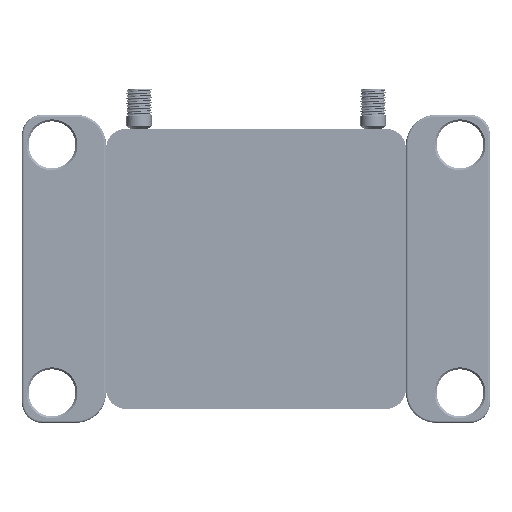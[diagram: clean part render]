
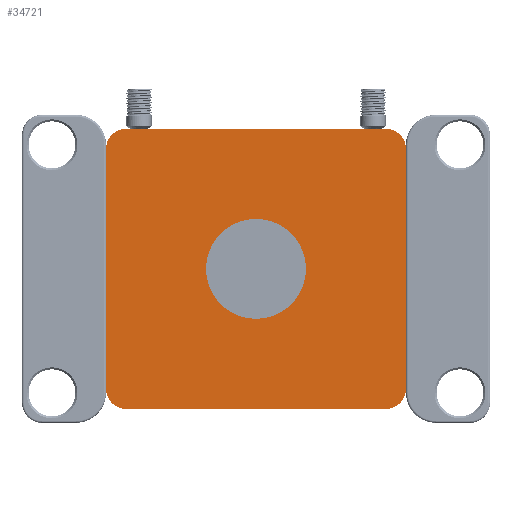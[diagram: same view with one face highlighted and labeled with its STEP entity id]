
A CAD part, front view. The second image highlights one B-rep face of the part: STEP entity #34721.
In plain terms, the highlighted planar face has unit normal (0, -1, 0) as drawn and (0, 1, 0) by its records, which use the part's own axes.
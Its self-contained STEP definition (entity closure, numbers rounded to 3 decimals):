
#326 = DIRECTION ( 'NONE',  ( -1., 0., 0. ) ) ;
#699 = CARTESIAN_POINT ( 'NONE',  ( 0., 8., 25. ) ) ;
#965 = VERTEX_POINT ( 'NONE', #47832 ) ;
#1622 = DIRECTION ( 'NONE',  ( 0., 0., 1. ) ) ;
#1713 = LINE ( 'NONE', #6907, #27097 ) ;
#3095 = CARTESIAN_POINT ( 'NONE',  ( -65., 8., -60. ) ) ;
#3422 = ORIENTED_EDGE ( 'NONE', *, *, #52947, .T. ) ;
#5233 = FACE_OUTER_BOUND ( 'NONE', #31980, .T. ) ;
#6200 = CIRCLE ( 'NONE', #20962, 10. ) ;
#6446 = ORIENTED_EDGE ( 'NONE', *, *, #16404, .T. ) ;
#6511 = FACE_BOUND ( 'NONE', #52946, .T. ) ;
#6548 = AXIS2_PLACEMENT_3D ( 'NONE', #3095, #6706, #31934 ) ;
#6706 = DIRECTION ( 'NONE',  ( 0., 1., 0. ) ) ;
#6907 = CARTESIAN_POINT ( 'NONE',  ( 65., 8., 70. ) ) ;
#7329 = CARTESIAN_POINT ( 'NONE',  ( 65., 8., 60. ) ) ;
#7613 = CARTESIAN_POINT ( 'NONE',  ( -75., 8., -60. ) ) ;
#7651 = VERTEX_POINT ( 'NONE', #7613 ) ;
#7685 = ORIENTED_EDGE ( 'NONE', *, *, #57881, .T. ) ;
#8402 = VERTEX_POINT ( 'NONE', #44246 ) ;
#10385 = VERTEX_POINT ( 'NONE', #62596 ) ;
#10477 = AXIS2_PLACEMENT_3D ( 'NONE', #56327, #26480, #1622 ) ;
#10782 = LINE ( 'NONE', #36648, #63142 ) ;
#11308 = CIRCLE ( 'NONE', #51080, 25. ) ;
#11392 = VECTOR ( 'NONE', #20124, 1000. ) ;
#11656 = VERTEX_POINT ( 'NONE', #35605 ) ;
#12130 = CARTESIAN_POINT ( 'NONE',  ( 75., 8., -60. ) ) ;
#14610 = DIRECTION ( 'NONE',  ( 0., 0., -1. ) ) ;
#14898 = LINE ( 'NONE', #55215, #11392 ) ;
#16355 = EDGE_CURVE ( 'NONE', #7651, #8402, #20705, .T. ) ;
#16404 = EDGE_CURVE ( 'NONE', #8402, #965, #52012, .T. ) ;
#16463 = VERTEX_POINT ( 'NONE', #39209 ) ;
#18354 = EDGE_CURVE ( 'NONE', #61626, #10385, #11308, .T. ) ;
#20124 = DIRECTION ( 'NONE',  ( 0., 0., -1. ) ) ;
#20626 = EDGE_CURVE ( 'NONE', #965, #58205, #1713, .T. ) ;
#20705 = LINE ( 'NONE', #55817, #47791 ) ;
#20826 = DIRECTION ( 'NONE',  ( 0., 1., 0. ) ) ;
#20962 = AXIS2_PLACEMENT_3D ( 'NONE', #44082, #63773, #33905 ) ;
#21689 = CARTESIAN_POINT ( 'NONE',  ( 0., 8., 0. ) ) ;
#24082 = ORIENTED_EDGE ( 'NONE', *, *, #35464, .T. ) ;
#26003 = DIRECTION ( 'NONE',  ( 0., 1., 0. ) ) ;
#26480 = DIRECTION ( 'NONE',  ( 0., 1., 0. ) ) ;
#27097 = VECTOR ( 'NONE', #41350, 1000. ) ;
#27254 = DIRECTION ( 'NONE',  ( 0., 0., 1. ) ) ;
#27365 = CIRCLE ( 'NONE', #64058, 25. ) ;
#28430 = VERTEX_POINT ( 'NONE', #52493 ) ;
#29946 = AXIS2_PLACEMENT_3D ( 'NONE', #7329, #26003, #36177 ) ;
#30977 = CIRCLE ( 'NONE', #29946, 10. ) ;
#31650 = ORIENTED_EDGE ( 'NONE', *, *, #47291, .F. ) ;
#31934 = DIRECTION ( 'NONE',  ( 0., 0., 1. ) ) ;
#31951 = ORIENTED_EDGE ( 'NONE', *, *, #16355, .T. ) ;
#31980 = EDGE_LOOP ( 'NONE', ( #54625, #31951, #6446, #56882, #7685, #36210, #24082, #3422 ) ) ;
#32174 = DIRECTION ( 'NONE',  ( 0., 1., 0. ) ) ;
#32701 = VERTEX_POINT ( 'NONE', #12130 ) ;
#33905 = DIRECTION ( 'NONE',  ( 0., 0., -1. ) ) ;
#34721 = ADVANCED_FACE ( 'NONE', ( #6511, #5233 ), #40296, .T. ) ;
#35464 = EDGE_CURVE ( 'NONE', #32701, #28430, #6200, .T. ) ;
#35605 = CARTESIAN_POINT ( 'NONE',  ( 75., 8., 60. ) ) ;
#36177 = DIRECTION ( 'NONE',  ( 0., 0., -1. ) ) ;
#36210 = ORIENTED_EDGE ( 'NONE', *, *, #42505, .T. ) ;
#36648 = CARTESIAN_POINT ( 'NONE',  ( 65., 8., -70. ) ) ;
#36914 = CIRCLE ( 'NONE', #6548, 10. ) ;
#38560 = DIRECTION ( 'NONE',  ( 0., 1., 0. ) ) ;
#39209 = CARTESIAN_POINT ( 'NONE',  ( -65., 8., -70. ) ) ;
#40296 = PLANE ( 'NONE',  #10477 ) ;
#40750 = DIRECTION ( 'NONE',  ( 0., 0., 1. ) ) ;
#41350 = DIRECTION ( 'NONE',  ( 1., 0., 0. ) ) ;
#42505 = EDGE_CURVE ( 'NONE', #11656, #32701, #14898, .T. ) ;
#43640 = AXIS2_PLACEMENT_3D ( 'NONE', #54620, #38560, #14610 ) ;
#44082 = CARTESIAN_POINT ( 'NONE',  ( 65., 8., -60. ) ) ;
#44246 = CARTESIAN_POINT ( 'NONE',  ( -75., 8., 60. ) ) ;
#47291 = EDGE_CURVE ( 'NONE', #10385, #61626, #27365, .T. ) ;
#47791 = VECTOR ( 'NONE', #40750, 1000. ) ;
#47832 = CARTESIAN_POINT ( 'NONE',  ( -65., 8., 70. ) ) ;
#50380 = DIRECTION ( 'NONE',  ( 0., 0., 1. ) ) ;
#51080 = AXIS2_PLACEMENT_3D ( 'NONE', #59896, #20826, #50380 ) ;
#52012 = CIRCLE ( 'NONE', #43640, 10. ) ;
#52493 = CARTESIAN_POINT ( 'NONE',  ( 65., 8., -70. ) ) ;
#52946 = EDGE_LOOP ( 'NONE', ( #31650, #61498 ) ) ;
#52947 = EDGE_CURVE ( 'NONE', #28430, #16463, #10782, .T. ) ;
#54620 = CARTESIAN_POINT ( 'NONE',  ( -65., 8., 60. ) ) ;
#54625 = ORIENTED_EDGE ( 'NONE', *, *, #62344, .T. ) ;
#55215 = CARTESIAN_POINT ( 'NONE',  ( 75., 8., -60. ) ) ;
#55817 = CARTESIAN_POINT ( 'NONE',  ( -75., 8., -60. ) ) ;
#56327 = CARTESIAN_POINT ( 'NONE',  ( -50., 8., -50. ) ) ;
#56882 = ORIENTED_EDGE ( 'NONE', *, *, #20626, .T. ) ;
#57881 = EDGE_CURVE ( 'NONE', #58205, #11656, #30977, .T. ) ;
#58205 = VERTEX_POINT ( 'NONE', #59105 ) ;
#59105 = CARTESIAN_POINT ( 'NONE',  ( 65., 8., 70. ) ) ;
#59896 = CARTESIAN_POINT ( 'NONE',  ( 0., 8., 0. ) ) ;
#61498 = ORIENTED_EDGE ( 'NONE', *, *, #18354, .F. ) ;
#61626 = VERTEX_POINT ( 'NONE', #699 ) ;
#62344 = EDGE_CURVE ( 'NONE', #16463, #7651, #36914, .T. ) ;
#62596 = CARTESIAN_POINT ( 'NONE',  ( 0., 8., -25. ) ) ;
#63142 = VECTOR ( 'NONE', #326, 1000. ) ;
#63773 = DIRECTION ( 'NONE',  ( 0., 1., 0. ) ) ;
#64058 = AXIS2_PLACEMENT_3D ( 'NONE', #21689, #32174, #27254 ) ;
